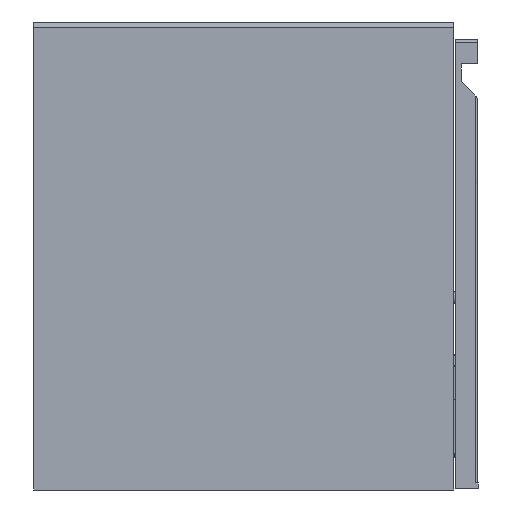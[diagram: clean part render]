
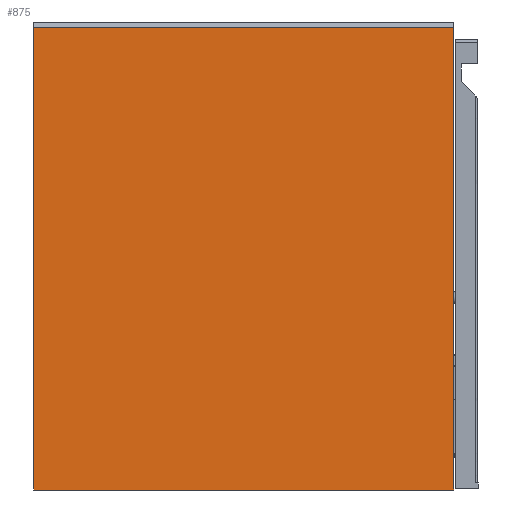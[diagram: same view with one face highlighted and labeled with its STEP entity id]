
A CAD part, left-side view. The second image highlights one B-rep face of the part: STEP entity #875.
In plain terms, the highlighted planar face has unit normal (-1, 0, 0).
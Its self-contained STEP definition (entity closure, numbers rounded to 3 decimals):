
#875=ADVANCED_FACE('',(#1393),#8921,.T.);
#1393=FACE_OUTER_BOUND('',#1973,.T.);
#1973=EDGE_LOOP('',(#4713,#4714,#4715,#4716));
#4713=ORIENTED_EDGE('',*,*,#6174,.F.);
#4714=ORIENTED_EDGE('',*,*,#6175,.T.);
#4715=ORIENTED_EDGE('',*,*,#6170,.F.);
#4716=ORIENTED_EDGE('',*,*,#6176,.T.);
#6170=EDGE_CURVE('',#8548,#8545,#7224,.T.);
#6174=EDGE_CURVE('',#8552,#8549,#7228,.T.);
#6175=EDGE_CURVE('',#8552,#8545,#7229,.T.);
#6176=EDGE_CURVE('',#8548,#8549,#7230,.T.);
#7224=B_SPLINE_CURVE_WITH_KNOTS('',1,(#18654,#18655),.UNSPECIFIED.,.F.,
 .F.,(2,2),(-352.,0.),.UNSPECIFIED.);
#7228=B_SPLINE_CURVE_WITH_KNOTS('',1,(#18662,#18663),.UNSPECIFIED.,.F.,
 .F.,(2,2),(0.,352.),.UNSPECIFIED.);
#7229=B_SPLINE_CURVE_WITH_KNOTS('',1,(#18664,#18665),.UNSPECIFIED.,.F.,
 .F.,(2,2),(-387.,0.),.UNSPECIFIED.);
#7230=B_SPLINE_CURVE_WITH_KNOTS('',1,(#18666,#18667),.UNSPECIFIED.,.F.,
 .F.,(2,2),(0.,387.),.UNSPECIFIED.);
#8545=VERTEX_POINT('',#18638);
#8548=VERTEX_POINT('',#18641);
#8549=VERTEX_POINT('',#18642);
#8552=VERTEX_POINT('',#18645);
#8921=PLANE('',#9860);
#9860=AXIS2_PLACEMENT_3D('',#18633,#10323,$);
#10323=DIRECTION('',(-1.,0.,0.));
#18633=CARTESIAN_POINT('',(208.326,-624.226,-43.82));
#18638=CARTESIAN_POINT('',(208.326,-236.906,-5.));
#18641=CARTESIAN_POINT('',(208.326,-588.906,-5.));
#18642=CARTESIAN_POINT('',(208.326,-588.906,382.));
#18645=CARTESIAN_POINT('',(208.326,-236.906,382.));
#18654=CARTESIAN_POINT('',(208.326,-588.906,-5.));
#18655=CARTESIAN_POINT('',(208.326,-236.906,-5.));
#18662=CARTESIAN_POINT('',(208.326,-236.906,382.));
#18663=CARTESIAN_POINT('',(208.326,-588.906,382.));
#18664=CARTESIAN_POINT('',(208.326,-236.906,382.));
#18665=CARTESIAN_POINT('',(208.326,-236.906,-5.));
#18666=CARTESIAN_POINT('',(208.326,-588.906,-5.));
#18667=CARTESIAN_POINT('',(208.326,-588.906,382.));
